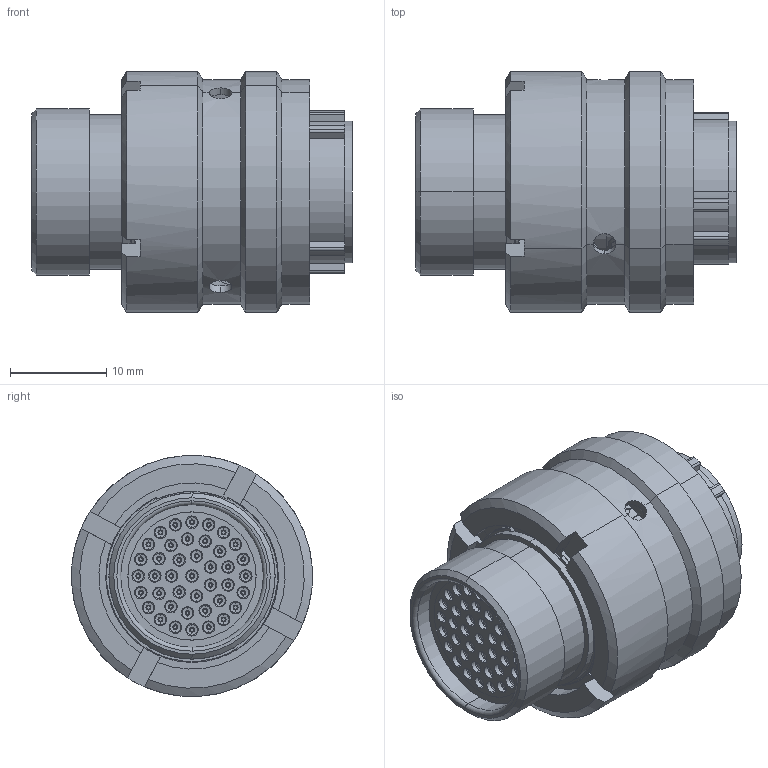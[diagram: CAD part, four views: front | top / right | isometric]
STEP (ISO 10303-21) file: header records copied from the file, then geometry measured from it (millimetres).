
FILE_DESCRIPTION (( 'STEP AP214' ), '1' );
FILE_NAME ('ASDD612-41PA.STEP', '2013-06-13T14:52:22', ( 'TE Connectivity' ), ( 'TE Connectivity' ), 'SwSTEP 2.0', 'SolidWorks 2011', '' );
FILE_SCHEMA (( 'AUTOMOTIVE_DESIGN' ));
Length unit declared in the file: inch
Products named in the file (1): ASDD612-41PA
Bounding box: 33.37 x 25.08 x 25.08 mm (x, y, z)
Volume: 7269.8 mm3; surface area: 10828.9 mm2
Topology: 49 solids, 49 shells, 2283 faces, 5291 edges, 3157 vertices
Faces by surface type: cylinder 760, torus 584, plane 504, cone 340, sphere 86, bspline 9
Entity records: 99467 total; most frequent: CARTESIAN_POINT 17848, DIRECTION 11587, ORIENTED_EDGE 10234, EDGE_CURVE 5117, AXIS2_PLACEMENT_3D 5113, VERTEX_POINT 3069, CIRCLE 2838, EDGE_LOOP 2598
